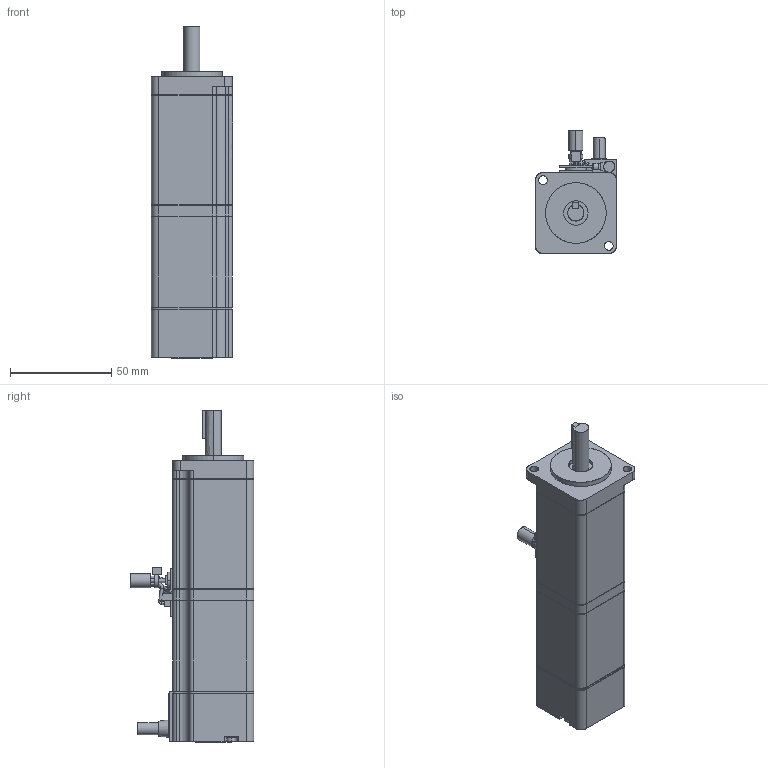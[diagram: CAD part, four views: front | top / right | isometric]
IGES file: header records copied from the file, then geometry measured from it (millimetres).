
Start section: SolidWorks IGES file using analytic representation for surfaces
Global section: file name: D:\YASKAWA\sjme_01amb4c.IGS; native system: SolidWorks 2006 by SolidWorks Corporation; preprocessor: SolidWorks 2006 by SolidWorks Corporation; author: yamanouchi; date: 111109.083802; units: millimetre
Bounding box: 40.1 x 61.1 x 164.1 mm (x, y, z)
Surface area: 27463 mm2 (no closed solid volume)
Topology: 0 solids, 0 shells, 370 faces, 5122 edges, 5122 vertices
Faces by surface type: bspline 231, revolution 139
